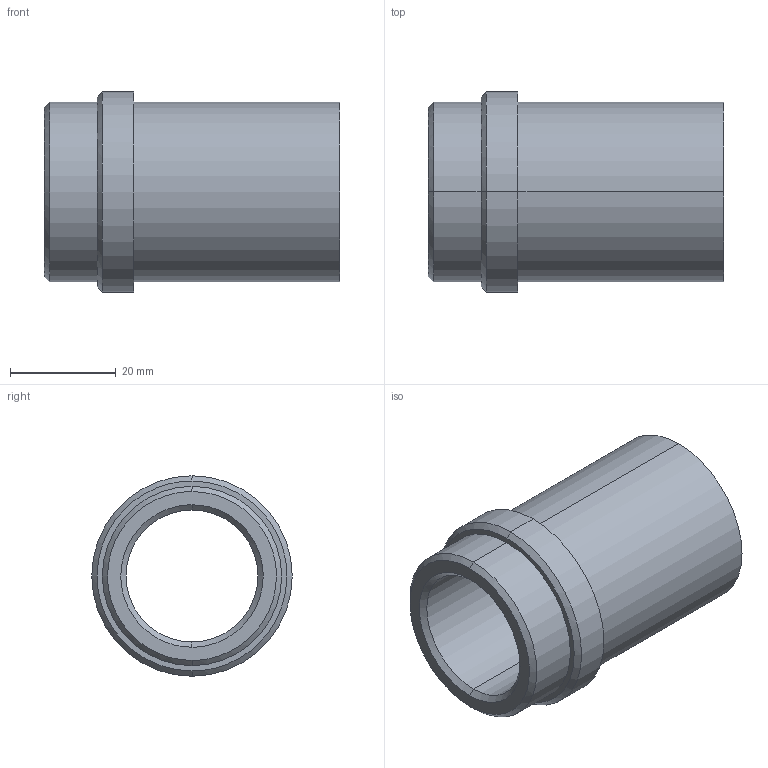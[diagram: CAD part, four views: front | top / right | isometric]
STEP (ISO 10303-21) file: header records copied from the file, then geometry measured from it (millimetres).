
FILE_DESCRIPTION(('CATIA V5 STEP Exchange'),'2;1');
FILE_NAME('C:\Users\Utente\Desktop\IO LAVORO\3D X SITO CF\X SITO\PLASTICA\358\358-25x56.stp','2021-04-09T13:21:59+00:00',('none'),('none'),'CATIA Version 5 Release 20 GA (IN-10)','CATIA V5 STEP AP203','none');
FILE_SCHEMA(('CONFIG_CONTROL_DESIGN'));
Length unit declared in the file: millimetre
Products named in the file (1): 358-25X56
Bounding box: 56 x 38 x 38 mm (x, y, z)
Volume: 24716.8 mm3; surface area: 11508.8 mm2
Topology: 1 solids, 1 shells, 20 faces, 64 edges, 48 vertices
Faces by surface type: cylinder 8, cone 6, plane 4, torus 2
Entity records: 906 total; most frequent: CARTESIAN_POINT 301, ORIENTED_EDGE 128, DIRECTION 92, EDGE_CURVE 64, AXIS2_PLACEMENT_3D 59, VERTEX_POINT 48, CIRCLE 38, EDGE_LOOP 24
